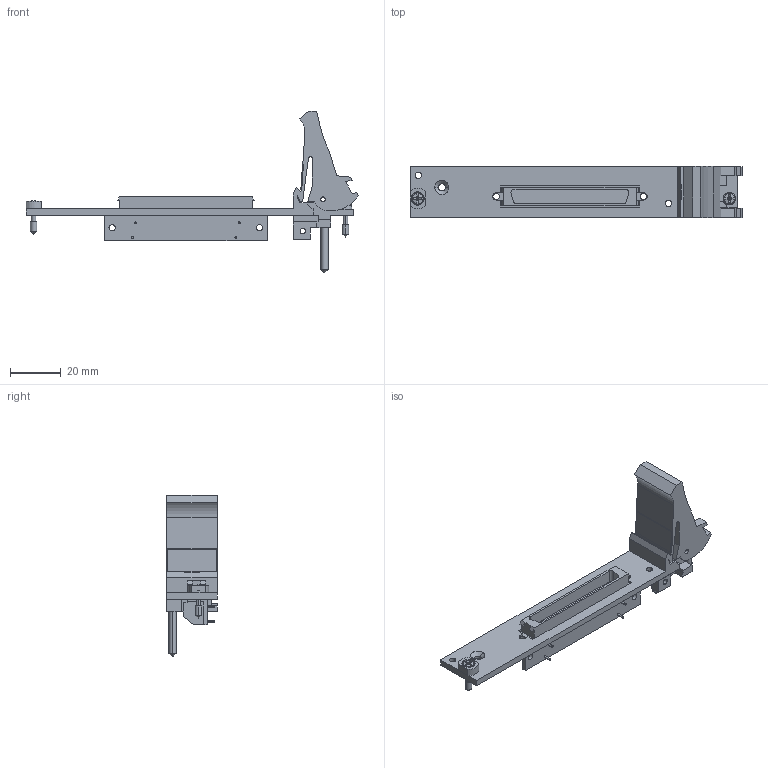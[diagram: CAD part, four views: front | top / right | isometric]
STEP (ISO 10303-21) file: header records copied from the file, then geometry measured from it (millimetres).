
FILE_DESCRIPTION((''),'2;1');
FILE_NAME('CU_PXI-2503','2009-09-24T',('jjorden'),(''),'PRO/ENGINEER BY PARAMETRIC TECHNOLOGY CORPORATION, 2006080','PRO/ENGINEER BY PARAMETRIC TECHNOLOGY CORPORATION, 2006080','');
FILE_SCHEMA(('CONFIG_CONTROL_DESIGN'));
Length unit declared in the file: inch
Products named in the file (1): CU_PXI-2503
Bounding box: 130.44 x 20.02 x 63.53 mm (x, y, z)
Volume: 15705.6 mm3; surface area: 14734.1 mm2
Topology: 1 solids, 1 shells, 329 faces, 903 edges, 592 vertices
Faces by surface type: plane 232, cylinder 77, cone 12, torus 4, sphere 4
Entity records: 10696 total; most frequent: CARTESIAN_POINT 2097, ORIENTED_EDGE 1798, DIRECTION 1744, EDGE_CURVE 899, VECTOR 662, LINE 662, VERTEX_POINT 592, AXIS2_PLACEMENT_3D 541
